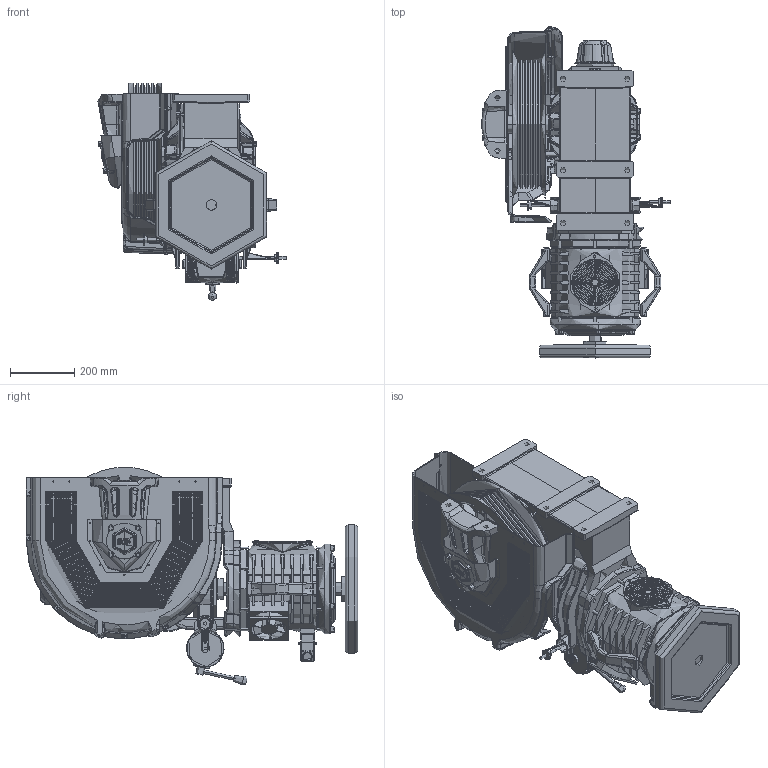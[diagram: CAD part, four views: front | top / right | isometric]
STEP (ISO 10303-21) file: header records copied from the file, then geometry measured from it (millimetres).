
FILE_DESCRIPTION (( 'STEP AP214' ), '1' );
FILE_NAME ('STC55080.STEP', '2026-01-20T07:53:14', ( '' ), ( '' ), 'SwSTEP 2.0', 'SolidWorks 2023', '' );
FILE_SCHEMA (( 'AUTOMOTIVE_DESIGN' ));
Length unit declared in the file: millimetre
Products named in the file (1): STC55080
Bounding box: 586.99 x 1034.16 x 679.18 mm (x, y, z)
Topology: 84 solids, 92 shells, 8596 faces, 21305 edges, 12778 vertices
Faces by surface type: plane 2573, cylinder 2457, bspline 1812, torus 853, cone 615, sphere 286
Full cylindrical faces by diameter (mm): 20 x3
Entity records: 333951 total; most frequent: CARTESIAN_POINT 142201, ORIENTED_EDGE 42312, DIRECTION 37396, EDGE_CURVE 21156, AXIS2_PLACEMENT_3D 15010, VERTEX_POINT 12742, EDGE_LOOP 9368, ADVANCED_FACE 8594
